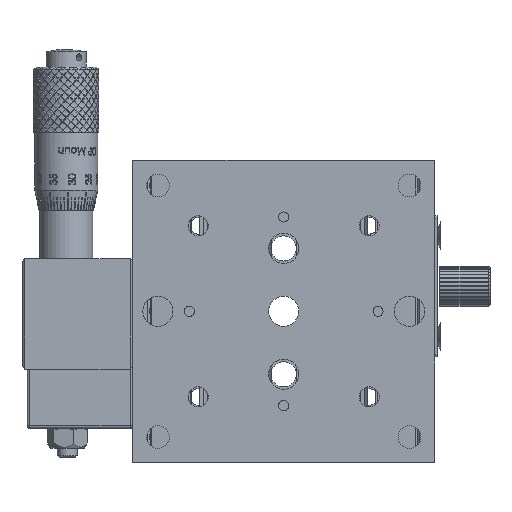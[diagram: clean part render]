
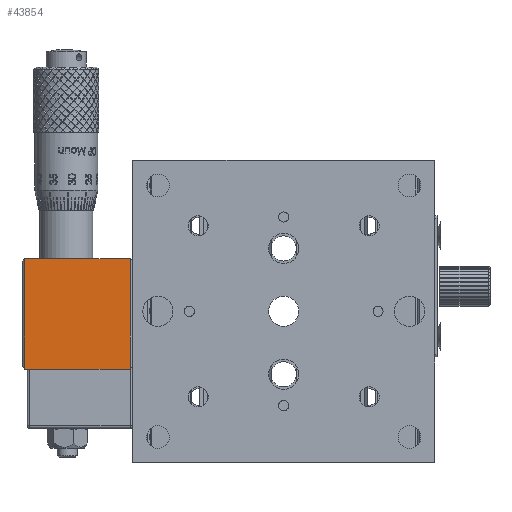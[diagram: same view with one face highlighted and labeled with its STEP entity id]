
A CAD part, front view. The second image highlights one B-rep face of the part: STEP entity #43854.
In plain terms, the highlighted planar face has unit normal (0, -1, 0).
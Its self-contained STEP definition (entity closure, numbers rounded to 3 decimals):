
#4690 = AXIS2_PLACEMENT_3D ( 'NONE', #145239, #145244, #145245 ) ;
#37390 = LINE ( 'NONE', #147365, #37395 ) ;
#37395 = VECTOR ( 'NONE', #147368, 1000. ) ;
#37399 = LINE ( 'NONE', #147385, #37402 ) ;
#37402 = VECTOR ( 'NONE', #147388, 1000. ) ;
#37404 = LINE ( 'NONE', #147370, #37409 ) ;
#37409 = VECTOR ( 'NONE', #147373, 1000. ) ;
#37411 = LINE ( 'NONE', #147411, #37417 ) ;
#37417 = VECTOR ( 'NONE', #147414, 1000. ) ;
#43854 = ADVANCED_FACE ( 'NONE', ( #97178 ), #145237, .F. ) ;
#65237 = EDGE_CURVE ( 'NONE', #77591, #76914, #37390, .T. ) ;
#65245 = EDGE_CURVE ( 'NONE', #76914, #75414, #37399, .T. ) ;
#65252 = EDGE_CURVE ( 'NONE', #76535, #75414, #37404, .T. ) ;
#65258 = EDGE_CURVE ( 'NONE', #76535, #77591, #37411, .T. ) ;
#75414 = VERTEX_POINT ( 'NONE', #135627 ) ;
#76535 = VERTEX_POINT ( 'NONE', #136208 ) ;
#76914 = VERTEX_POINT ( 'NONE', #136513 ) ;
#77591 = VERTEX_POINT ( 'NONE', #136871 ) ;
#97178 = FACE_OUTER_BOUND ( 'NONE', #112534, .T. ) ;
#111748 = ORIENTED_EDGE ( 'NONE', *, *, #65258, .T. ) ;
#111750 = ORIENTED_EDGE ( 'NONE', *, *, #65252, .F. ) ;
#111752 = ORIENTED_EDGE ( 'NONE', *, *, #65245, .T. ) ;
#111755 = ORIENTED_EDGE ( 'NONE', *, *, #65237, .T. ) ;
#112534 = EDGE_LOOP ( 'NONE', ( #111755, #111752, #111750, #111748 ) ) ;
#135627 = CARTESIAN_POINT ( 'NONE',  ( -215.301, -850.25, 288.178 ) ) ;
#136208 = CARTESIAN_POINT ( 'NONE',  ( -236.301, -850.25, 288.178 ) ) ;
#136513 = CARTESIAN_POINT ( 'NONE',  ( -215.301, -850.25, 266.178 ) ) ;
#136871 = CARTESIAN_POINT ( 'NONE',  ( -236.301, -850.25, 266.178 ) ) ;
#145237 = PLANE ( 'NONE',  #4690 ) ;
#145239 = CARTESIAN_POINT ( 'NONE',  ( -236.801, -850.25, 277.178 ) ) ;
#145244 = DIRECTION ( 'NONE',  ( 0., 1., 0. ) ) ;
#145245 = DIRECTION ( 'NONE',  ( -1., 0., 0. ) ) ;
#147365 = CARTESIAN_POINT ( 'NONE',  ( -236.801, -850.25, 266.178 ) ) ;
#147368 = DIRECTION ( 'NONE',  ( 1., 0., 0. ) ) ;
#147370 = CARTESIAN_POINT ( 'NONE',  ( -236.801, -850.25, 288.178 ) ) ;
#147373 = DIRECTION ( 'NONE',  ( 1., 0., 0. ) ) ;
#147385 = CARTESIAN_POINT ( 'NONE',  ( -215.301, -850.25, 277.178 ) ) ;
#147388 = DIRECTION ( 'NONE',  ( 0., 0., 1. ) ) ;
#147411 = CARTESIAN_POINT ( 'NONE',  ( -236.301, -850.25, 266.178 ) ) ;
#147414 = DIRECTION ( 'NONE',  ( 0., 0., -1. ) ) ;
